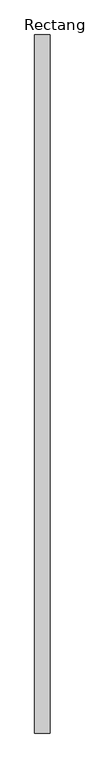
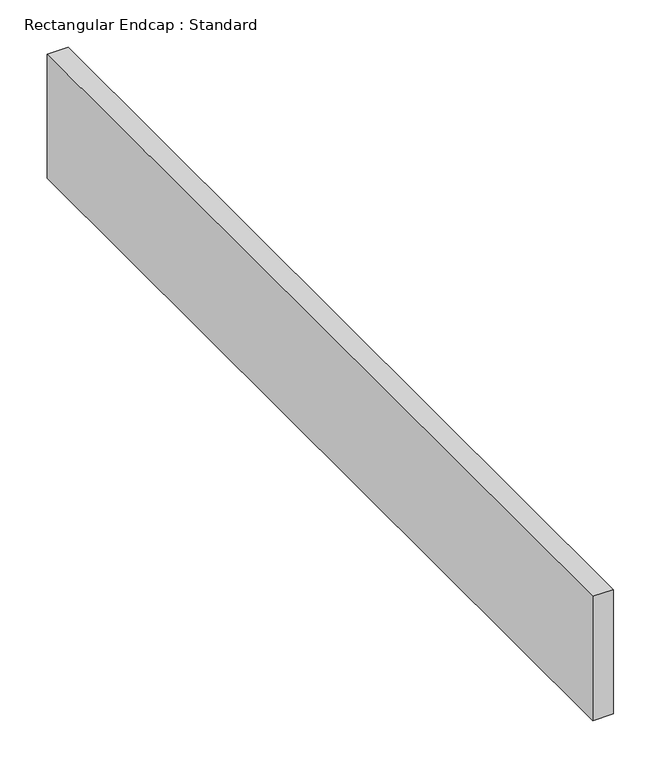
"""IFC4 building model written with IfcOpenShell, lengths in millimetres: duct fitting geometry, Rectangular Endcap : Standard."""

from ifc_helpers import new_model, si_unit, frame, origin, place, context, project, spatial, polyline, outline, extrude, source, transform, mapped, element, save


def rectangular_endcap_standard_4dcbd564(model_context):
    return source(origin(), model_context, "Body", "SweptSolid", [
        extrude(outline(polyline([(0.0, -575.3), (0.0, 575.3), (25.4, 575.3), (25.4, -575.3), (0.0, -575.3)])), frame((0.0, 0.0, -79.9), z_axis=(0.0, 0.0, 1.0), x_axis=(1.0, 0.0, 0.0)), (0.0, 0.0, 1.0), 159.8),
    ])


if __name__ == "__main__":
    model = new_model("IFC4")
    model_context = context("Model", 3, world=origin())
    ifc_project = project(units=[si_unit("LENGTHUNIT", "METRE", prefix="MILLI")], contexts=[model_context])
    site = spatial("IfcSite", under=ifc_project)
    building = spatial("IfcBuilding", under=site)
    placement = place(None, origin())
    rectangular_endcap_standard_shape = rectangular_endcap_standard_4dcbd564(model_context)
    element("IfcDuctFitting", 1, ObjectType="Rectangular Endcap : Standard", at=placement, inside=building, context=model_context, shape_type="MappedRepresentation", body=[
        mapped(rectangular_endcap_standard_shape, transform((0.0, 0.0, 0.0), x_axis=(1.0, 0.0, 0.0), y_axis=(0.0, 1.0, 0.0), z_axis=(0.0, 0.0, 1.0))),
    ])
    save(model, "model.ifc")
